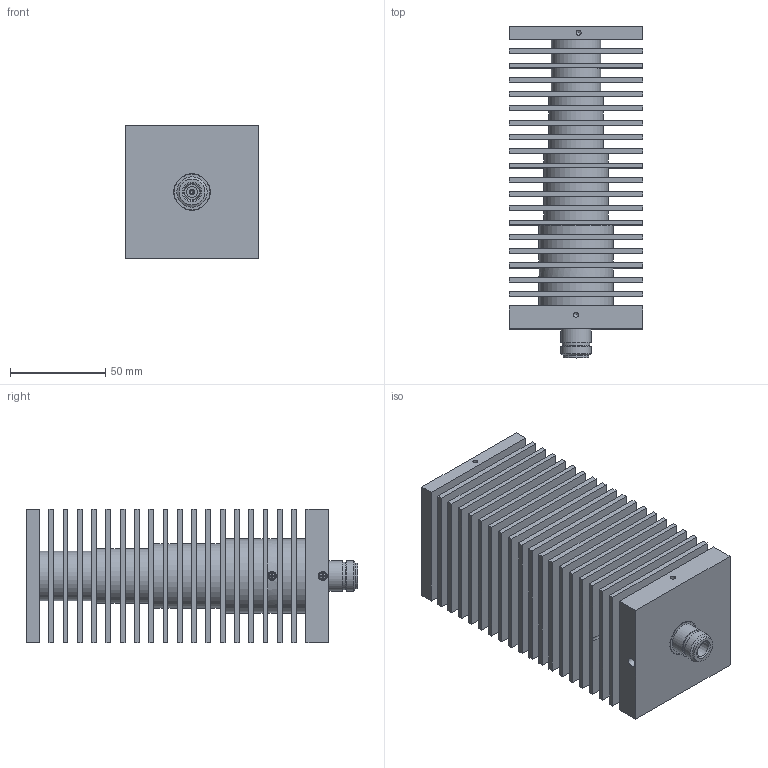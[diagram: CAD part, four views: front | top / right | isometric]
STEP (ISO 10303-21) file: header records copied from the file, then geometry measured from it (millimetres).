
FILE_DESCRIPTION(/* description */ ('Unknown'),/* implementation_level */ '2;1');
FILE_NAME(/* name */ '100-ST-FN Rev A',/* time_stamp */ '2023-08-01T08:01:03-04:00',/* author */ ('Unknown'),/* organization */ ('Unknown'),/* preprocessor_version */ 'ST-DEVELOPER v18.102',/* originating_system */ 'Solid Edge',/* authorisation */ 'Unknown');
FILE_SCHEMA (('AUTOMOTIVE_DESIGN {1 0 10303 214 3 1 1}'));
Length unit declared in the file: millimetre
Products named in the file (1): 100-ST-FN
Bounding box: 69.85 x 174.14 x 69.85 mm (x, y, z)
Volume: 393186.1 mm3; surface area: 196896.4 mm2
Topology: 1 solids, 1 shells, 983 faces, 2555 edges, 1701 vertices
Faces by surface type: plane 737, cylinder 128, bspline 89, cone 26, sphere 2, torus 1
Full cylindrical faces by diameter (mm): 1.27 x1, 2.184 x2, 2.388 x2, 2.647 x2, 2.972 x2, 3.556 x2, 4.75 x2, 5.961 x1, 5.991 x1, 7.036 x1, 11.43 x1, 13.518 x1, 14.559 x1, 15.875 x1, 15.905 x1, 19.05 x1, 19.152 x1, 25.984 x4, 28.55 x4, 33.63 x5, 38.862 x6
Entity records: 39146 total; most frequent: CARTESIAN_POINT 9862, ORIENTED_EDGE 4898, DIRECTION 3893, EDGE_CURVE 2449, VERTEX_POINT 1672, LINE 1495, VECTOR 1495, AXIS2_PLACEMENT_3D 1199
